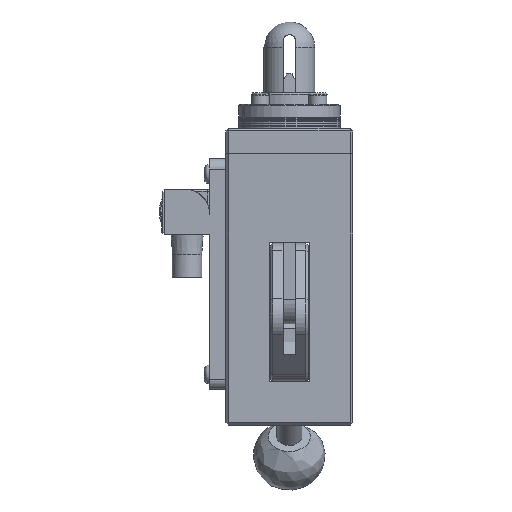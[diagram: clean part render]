
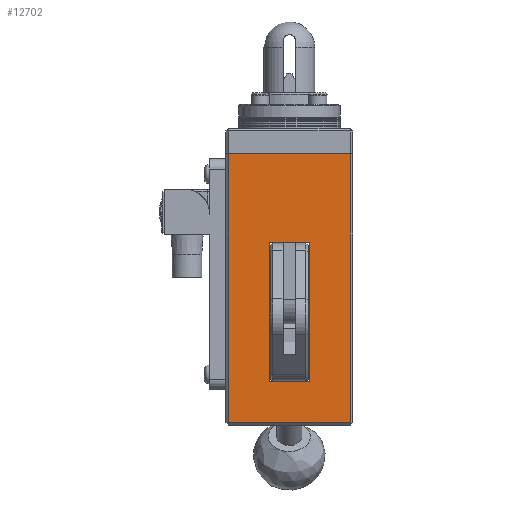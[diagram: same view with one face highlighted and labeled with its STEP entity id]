
A CAD part, left-side view. The second image highlights one B-rep face of the part: STEP entity #12702.
In plain terms, the highlighted planar face has unit normal (-1, 0, 0).
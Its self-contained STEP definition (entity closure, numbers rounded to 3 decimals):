
#362=FACE_BOUND('',#1976,.T.);
#750=PLANE('',#13814);
#1179=FACE_OUTER_BOUND('',#1975,.T.);
#1975=EDGE_LOOP('',(#9242,#9243,#9244,#9245));
#1976=EDGE_LOOP('',(#9246,#9247,#9248,#9249));
#2791=LINE('',#19526,#3718);
#2798=LINE('',#19556,#3725);
#2824=LINE('',#19635,#3751);
#2827=LINE('',#19641,#3754);
#2869=LINE('',#19855,#3796);
#2877=LINE('',#19877,#3804);
#2889=LINE('',#19917,#3816);
#2890=LINE('',#19919,#3817);
#3718=VECTOR('',#15422,10.);
#3725=VECTOR('',#15451,10.);
#3751=VECTOR('',#15527,10.);
#3754=VECTOR('',#15532,10.);
#3796=VECTOR('',#15764,10.);
#3804=VECTOR('',#15786,10.);
#3816=VECTOR('',#15830,10.);
#3817=VECTOR('',#15833,10.);
#5514=VERTEX_POINT('',#19523);
#5515=VERTEX_POINT('',#19525);
#5526=VERTEX_POINT('',#19553);
#5527=VERTEX_POINT('',#19555);
#5555=VERTEX_POINT('',#19633);
#5557=VERTEX_POINT('',#19639);
#5634=VERTEX_POINT('',#19854);
#5641=VERTEX_POINT('',#19876);
#6843=EDGE_CURVE('',#5515,#5514,#2791,.T.);
#6857=EDGE_CURVE('',#5526,#5527,#2798,.T.);
#6894=EDGE_CURVE('',#5555,#5526,#2824,.T.);
#6897=EDGE_CURVE('',#5557,#5555,#2827,.T.);
#7000=EDGE_CURVE('',#5634,#5515,#2869,.T.);
#7010=EDGE_CURVE('',#5641,#5634,#2877,.T.);
#7028=EDGE_CURVE('',#5514,#5641,#2889,.T.);
#7029=EDGE_CURVE('',#5527,#5557,#2890,.T.);
#9242=ORIENTED_EDGE('',*,*,#6894,.F.);
#9243=ORIENTED_EDGE('',*,*,#6897,.F.);
#9244=ORIENTED_EDGE('',*,*,#7029,.F.);
#9245=ORIENTED_EDGE('',*,*,#6857,.F.);
#9246=ORIENTED_EDGE('',*,*,#7000,.T.);
#9247=ORIENTED_EDGE('',*,*,#6843,.T.);
#9248=ORIENTED_EDGE('',*,*,#7028,.T.);
#9249=ORIENTED_EDGE('',*,*,#7010,.T.);
#12702=ADVANCED_FACE('',(#1179,#362),#750,.T.);
#13814=AXIS2_PLACEMENT_3D('',#19918,#15831,#15832);
#15422=DIRECTION('',(0.,0.,1.));
#15451=DIRECTION('',(0.,0.,1.));
#15527=DIRECTION('',(0.,1.,0.));
#15532=DIRECTION('',(0.,0.,-1.));
#15764=DIRECTION('',(0.,1.,0.));
#15786=DIRECTION('',(0.,0.,-1.));
#15830=DIRECTION('',(0.,-1.,0.));
#15831=DIRECTION('center_axis',(-1.,0.,0.));
#15832=DIRECTION('ref_axis',(0.,-1.,0.));
#15833=DIRECTION('',(0.,-1.,0.));
#19523=CARTESIAN_POINT('',(-36.509,7.434,18.5));
#19525=CARTESIAN_POINT('',(-36.509,7.434,-36.5));
#19526=CARTESIAN_POINT('',(-36.509,7.434,-45.));
#19553=CARTESIAN_POINT('',(-36.509,23.434,-52.5));
#19555=CARTESIAN_POINT('',(-36.509,23.434,53.5));
#19556=CARTESIAN_POINT('',(-36.509,23.434,-53.5));
#19633=CARTESIAN_POINT('',(-36.509,-24.566,-52.5));
#19635=CARTESIAN_POINT('',(-36.509,-6.816,-52.5));
#19639=CARTESIAN_POINT('',(-36.509,-24.566,53.5));
#19641=CARTESIAN_POINT('',(-36.509,-24.566,-53.5));
#19854=CARTESIAN_POINT('',(-36.509,-8.566,-36.5));
#19855=CARTESIAN_POINT('',(-36.509,-0.566,-36.5));
#19876=CARTESIAN_POINT('',(-36.509,-8.566,18.5));
#19877=CARTESIAN_POINT('',(-36.509,-8.566,-45.));
#19917=CARTESIAN_POINT('',(-36.509,-4.566,18.5));
#19918=CARTESIAN_POINT('Origin',(-36.509,-0.566,-53.5));
#19919=CARTESIAN_POINT('',(-36.509,-0.566,53.5));
